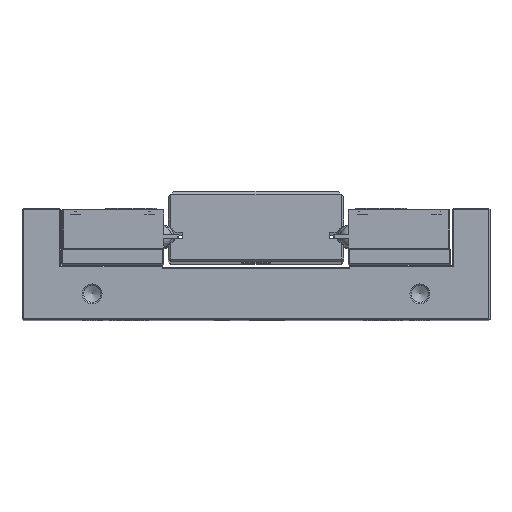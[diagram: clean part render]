
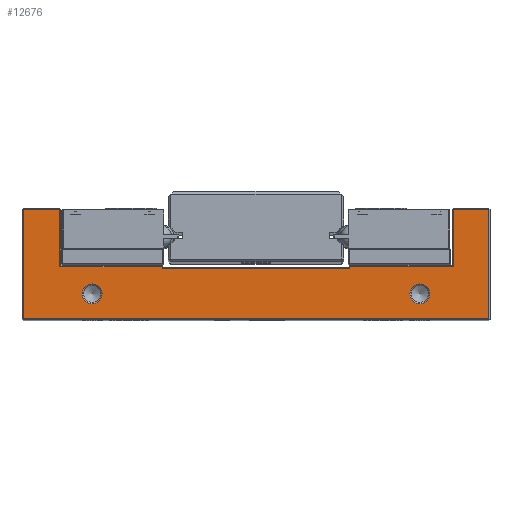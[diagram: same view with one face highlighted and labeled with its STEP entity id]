
A CAD part, top view. The second image highlights one B-rep face of the part: STEP entity #12676.
In plain terms, the highlighted planar face has unit normal (0, 0, 1).
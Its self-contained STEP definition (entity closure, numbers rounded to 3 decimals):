
#434=FACE_BOUND('',#2267,.T.);
#435=FACE_BOUND('',#2268,.T.);
#863=PLANE('',#13785);
#1481=FACE_OUTER_BOUND('',#2266,.T.);
#2266=EDGE_LOOP('',(#10443,#10444,#10445,#10446,#10447,#10448,#10449,#10450,
#10451,#10452,#10453,#10454));
#2267=EDGE_LOOP('',(#10455));
#2268=EDGE_LOOP('',(#10456));
#3278=LINE('',#21242,#4325);
#3316=LINE('',#21361,#4363);
#3317=LINE('',#21364,#4364);
#3319=LINE('',#21368,#4366);
#3320=LINE('',#21370,#4367);
#3321=LINE('',#21372,#4368);
#3322=LINE('',#21374,#4369);
#3323=LINE('',#21376,#4370);
#3324=LINE('',#21378,#4371);
#3325=LINE('',#21380,#4372);
#3326=LINE('',#21381,#4373);
#3327=LINE('',#21382,#4374);
#4325=VECTOR('',#16419,10.);
#4363=VECTOR('',#16549,10.);
#4364=VECTOR('',#16552,10.);
#4366=VECTOR('',#16556,10.);
#4367=VECTOR('',#16557,10.);
#4368=VECTOR('',#16558,10.);
#4369=VECTOR('',#16559,10.);
#4370=VECTOR('',#16560,10.);
#4371=VECTOR('',#16561,10.);
#4372=VECTOR('',#16562,10.);
#4373=VECTOR('',#16563,10.);
#4374=VECTOR('',#16564,10.);
#4921=CIRCLE('',#13786,3.824);
#4922=CIRCLE('',#13787,3.824);
#5871=VERTEX_POINT('',#21239);
#5872=VERTEX_POINT('',#21241);
#5906=VERTEX_POINT('',#21357);
#5907=VERTEX_POINT('',#21359);
#5908=VERTEX_POINT('',#21363);
#5909=VERTEX_POINT('',#21367);
#5910=VERTEX_POINT('',#21369);
#5911=VERTEX_POINT('',#21371);
#5912=VERTEX_POINT('',#21373);
#5913=VERTEX_POINT('',#21375);
#5914=VERTEX_POINT('',#21377);
#5915=VERTEX_POINT('',#21379);
#5916=VERTEX_POINT('',#21383);
#5917=VERTEX_POINT('',#21385);
#7424=EDGE_CURVE('',#5872,#5871,#3278,.T.);
#7484=EDGE_CURVE('',#5907,#5906,#3316,.T.);
#7485=EDGE_CURVE('',#5908,#5906,#3317,.T.);
#7487=EDGE_CURVE('',#5909,#5907,#3319,.T.);
#7488=EDGE_CURVE('',#5910,#5909,#3320,.T.);
#7489=EDGE_CURVE('',#5911,#5910,#3321,.T.);
#7490=EDGE_CURVE('',#5912,#5911,#3322,.T.);
#7491=EDGE_CURVE('',#5913,#5912,#3323,.T.);
#7492=EDGE_CURVE('',#5914,#5913,#3324,.T.);
#7493=EDGE_CURVE('',#5915,#5914,#3325,.T.);
#7494=EDGE_CURVE('',#5872,#5915,#3326,.T.);
#7495=EDGE_CURVE('',#5908,#5871,#3327,.T.);
#7496=EDGE_CURVE('',#5916,#5916,#4921,.T.);
#7497=EDGE_CURVE('',#5917,#5917,#4922,.T.);
#10443=ORIENTED_EDGE('',*,*,#7484,.F.);
#10444=ORIENTED_EDGE('',*,*,#7487,.F.);
#10445=ORIENTED_EDGE('',*,*,#7488,.F.);
#10446=ORIENTED_EDGE('',*,*,#7489,.F.);
#10447=ORIENTED_EDGE('',*,*,#7490,.F.);
#10448=ORIENTED_EDGE('',*,*,#7491,.F.);
#10449=ORIENTED_EDGE('',*,*,#7492,.F.);
#10450=ORIENTED_EDGE('',*,*,#7493,.F.);
#10451=ORIENTED_EDGE('',*,*,#7494,.F.);
#10452=ORIENTED_EDGE('',*,*,#7424,.T.);
#10453=ORIENTED_EDGE('',*,*,#7495,.F.);
#10454=ORIENTED_EDGE('',*,*,#7485,.T.);
#10455=ORIENTED_EDGE('',*,*,#7496,.F.);
#10456=ORIENTED_EDGE('',*,*,#7497,.F.);
#12676=ADVANCED_FACE('',(#1481,#434,#435),#863,.T.);
#13785=AXIS2_PLACEMENT_3D('',#21366,#16554,#16555);
#13786=AXIS2_PLACEMENT_3D('',#21384,#16565,#16566);
#13787=AXIS2_PLACEMENT_3D('',#21386,#16567,#16568);
#16419=DIRECTION('',(0.,-1.,0.));
#16549=DIRECTION('',(1.,0.,0.));
#16552=DIRECTION('',(0.,1.,0.));
#16554=DIRECTION('center_axis',(0.,0.,
1.));
#16555=DIRECTION('ref_axis',(1.,0.,0.));
#16556=DIRECTION('',(0.,-1.,0.));
#16557=DIRECTION('',(1.,0.,0.));
#16558=DIRECTION('',(0.,1.,0.));
#16559=DIRECTION('',(-1.,0.,0.));
#16560=DIRECTION('',(0.,-1.,0.));
#16561=DIRECTION('',(1.,0.,0.));
#16562=DIRECTION('',(0.,1.,0.));
#16563=DIRECTION('',(1.,0.,0.));
#16564=DIRECTION('',(1.,0.,0.));
#16565=DIRECTION('center_axis',(0.,0.,
1.));
#16566=DIRECTION('ref_axis',(-1.,0.,0.));
#16567=DIRECTION('center_axis',(0.,0.,
1.));
#16568=DIRECTION('ref_axis',(-1.,0.,0.));
#21239=CARTESIAN_POINT('',(27.11,-21.38,59.754));
#21241=CARTESIAN_POINT('',(27.11,-20.58,59.754));
#21242=CARTESIAN_POINT('',(27.11,-20.08,59.754));
#21357=CARTESIAN_POINT('',(-44.89,-20.58,59.754));
#21359=CARTESIAN_POINT('',(-84.39,-20.58,59.754));
#21361=CARTESIAN_POINT('',(-26.89,-20.58,59.754));
#21363=CARTESIAN_POINT('',(-44.89,-21.38,59.754));
#21364=CARTESIAN_POINT('',(-44.89,-20.88,59.754));
#21366=CARTESIAN_POINT('Origin',(-8.89,-19.58,59.754));
#21367=CARTESIAN_POINT('',(-84.39,1.42,59.754));
#21368=CARTESIAN_POINT('',(-84.39,-19.83,59.754));
#21369=CARTESIAN_POINT('',(-98.39,1.42,59.754));
#21370=CARTESIAN_POINT('',(-46.39,1.42,59.754));
#21371=CARTESIAN_POINT('',(-98.39,-40.58,59.754));
#21372=CARTESIAN_POINT('',(-98.39,-8.83,59.754));
#21373=CARTESIAN_POINT('',(80.61,-40.58,59.754));
#21374=CARTESIAN_POINT('',(-53.89,-40.58,59.754));
#21375=CARTESIAN_POINT('',(80.61,1.42,59.754));
#21376=CARTESIAN_POINT('',(80.61,-30.33,59.754));
#21377=CARTESIAN_POINT('',(67.11,1.42,59.754));
#21378=CARTESIAN_POINT('',(36.11,1.42,59.754));
#21379=CARTESIAN_POINT('',(67.11,-20.58,59.754));
#21380=CARTESIAN_POINT('',(67.11,-8.83,59.754));
#21381=CARTESIAN_POINT('',(28.86,-20.58,59.754));
#21382=CARTESIAN_POINT('',(9.11,-21.38,59.754));
#21383=CARTESIAN_POINT('',(57.933,-31.08,59.754));
#21384=CARTESIAN_POINT('Origin',(54.11,-31.08,59.754));
#21385=CARTESIAN_POINT('',(-68.067,-31.08,59.754));
#21386=CARTESIAN_POINT('Origin',(-71.89,-31.08,59.754));
